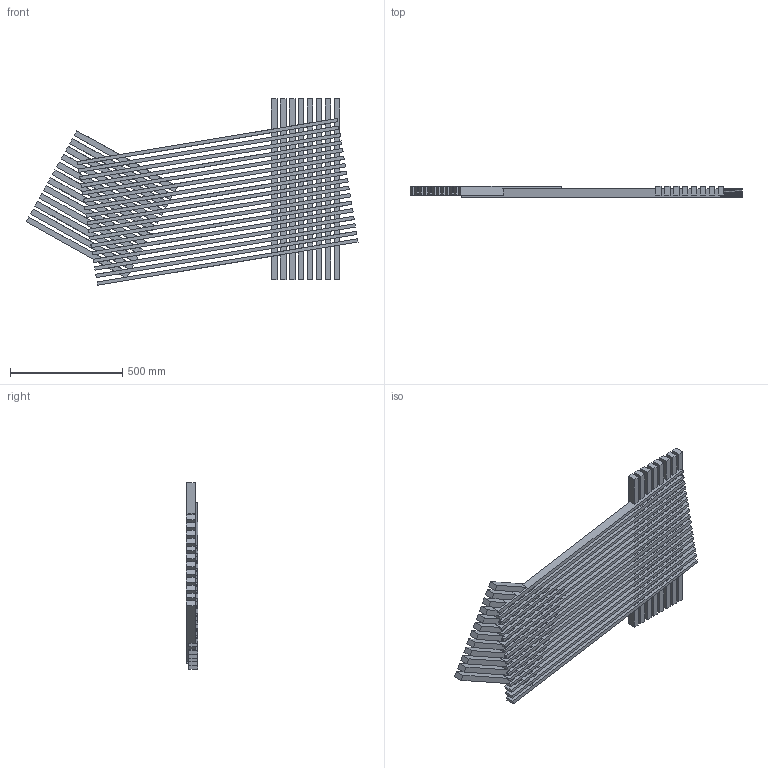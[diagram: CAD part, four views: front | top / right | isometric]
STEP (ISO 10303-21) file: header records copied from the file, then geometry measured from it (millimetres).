
FILE_DESCRIPTION (( 'STEP AP203' ), '1' );
FILE_NAME ('UNEVEN WALL WOOD RUG 148x83x5.STEP', '2023-09-18T06:06:20', ( '' ), ( '' ), 'SwSTEP 2.0', 'SolidWorks 2023', '' );
FILE_SCHEMA (( 'CONFIG_CONTROL_DESIGN' ));
Products named in the file (2): UNEVEN WALL WOOD RUG 148x83x5; Group1^UNEVEN WALL WOOD RUG 148x83x5
Assembly tree (1 placements, depth 2):
  UNEVEN WALL WOOD RUG 148x83x5
    Group1^UNEVEN WALL WOOD RUG 148x83x5
Bounding box: 1480.54 x 51 x 830.97 mm (x, y, z)
Volume: 21833681.4 mm3; surface area: 3852385.5 mm2
Topology: 1 solids, 1 shells, 1534 faces, 4850 edges, 2952 vertices
Faces by surface type: plane 1489, cylinder 45
Entity records: 52420 total; most frequent: ORIENTED_EDGE 9700, CARTESIAN_POINT 9340, DIRECTION 8016, EDGE_CURVE 4850, LINE 4760, VECTOR 4760, VERTEX_POINT 2952, AXIS2_PLACEMENT_3D 1628
